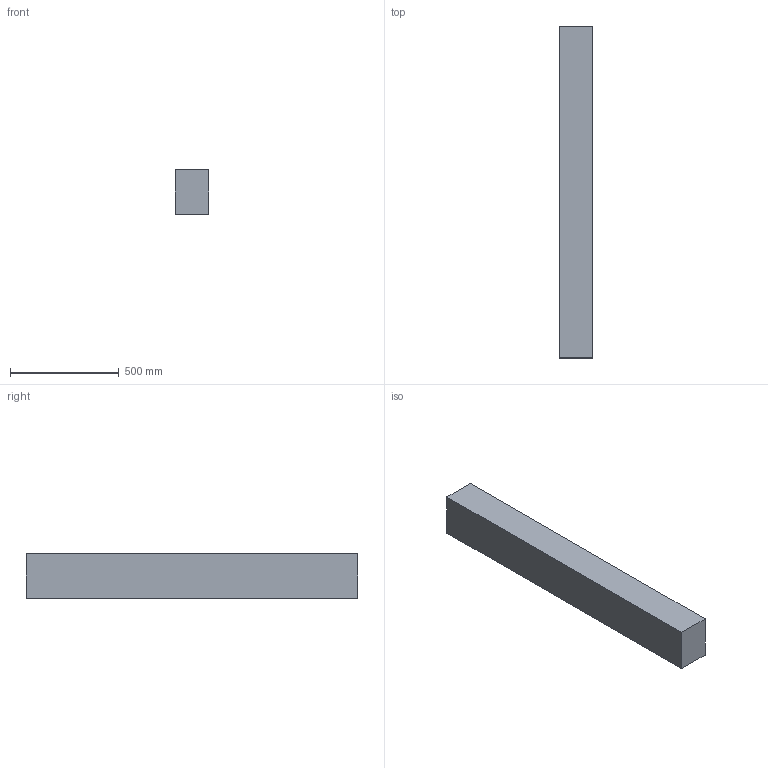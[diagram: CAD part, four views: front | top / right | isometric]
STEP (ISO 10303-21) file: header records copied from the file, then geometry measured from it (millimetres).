
FILE_DESCRIPTION(/* description */ (''),/* implementation_level */ '2;1');
FILE_NAME(/* name */ '6x8x60',/* time_stamp */ '2024-09-20T11:47:09-05:00',/* author */ (''),/* organization */ (''),/* preprocessor_version */ 'ST-DEVELOPER v19.2',/* originating_system */ 'Rhino 8.5',/* authorisation */ '');
FILE_SCHEMA (('CONFIG_CONTROL_DESIGN'));
Length unit declared in the file: inch
Products named in the file (1): Document
Bounding box: 152.4 x 1524 x 203.2 mm (x, y, z)
Volume: 47194744.3 mm3; surface area: 1145804.2 mm2
Topology: 1 solids, 1 shells, 6 faces, 12 edges, 8 vertices
Faces by surface type: plane 6
Entity records: 226 total; most frequent: CARTESIAN_POINT 40, ORIENTED_EDGE 24, EDGE_CURVE 12, B_SPLINE_CURVE_WITH_KNOTS 12, DIRECTION 10, VERTEX_POINT 8, AXIS2_PLACEMENT_3D 8, ORGANIZATION 7
